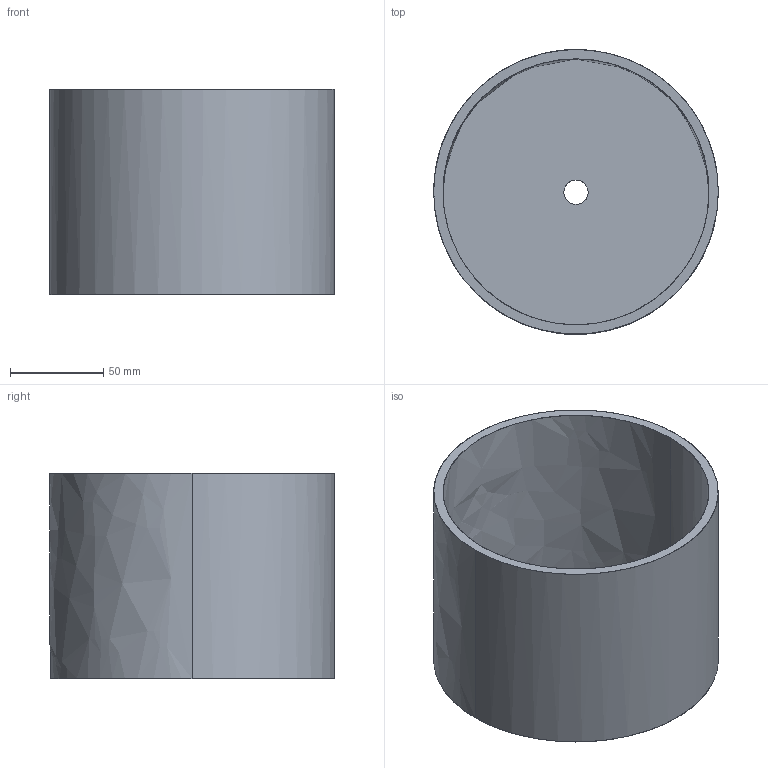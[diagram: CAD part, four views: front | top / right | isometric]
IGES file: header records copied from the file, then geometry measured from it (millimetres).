
Global section: file name: E:\UnigraphicsGraphicData\MISUMI_PRESS-PARTS\IGES\3d_phn100-110-r_07078_r00.igs; native system: NX V5.0; preprocessor: UGS NX IGES V5.0; author: MISUMI; date: 20110105.162250; units: millimetre
Bounding box: 152.5 x 152.5 x 110 mm (x, y, z)
Surface area: 138613.4 mm2 (no closed solid volume)
Topology: 0 solids, 0 shells, 15 faces, 178 edges, 178 vertices
Faces by surface type: bspline 15
